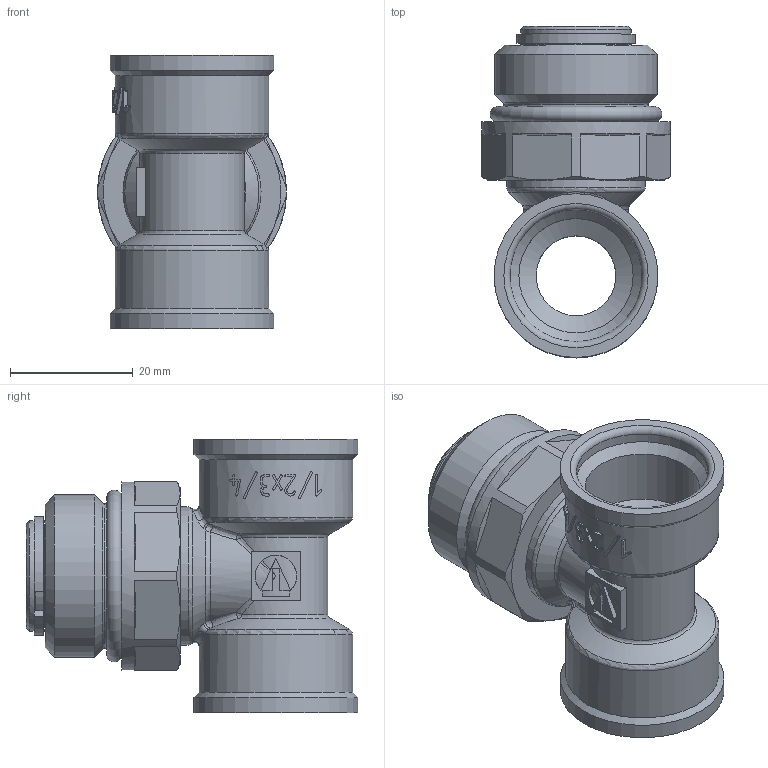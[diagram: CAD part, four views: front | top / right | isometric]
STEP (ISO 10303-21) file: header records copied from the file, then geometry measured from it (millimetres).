
FILE_DESCRIPTION(('STEP AP242'), '1');
FILE_NAME('VTc.630.N.0504', '', ('UNSPECIFIED'), ('UNSPECIFIED'), 'C3D Converter', 'C3D Toolkit', '');
FILE_SCHEMA(('AP242_MANAGED_MODEL_BASED_3D_ENGINEERING_MIM_LF { 1 0 10303 442 1 1 4 }'));
Length unit declared in the file: millimetre
Products named in the file (1): ВР.302635.091.000 СБ
Bounding box: 30.8 x 54.05 x 44.6 mm (x, y, z)
Volume: 19711.5 mm3; surface area: 11503.5 mm2
Topology: 1 solids, 1 shells, 309 faces, 826 edges, 528 vertices
Faces by surface type: extrusion 108, plane 91, cylinder 33, bspline 33, cone 31, torus 13
Full cylindrical faces by diameter (mm): 13 x2, 18 x2, 18.632 x2, 21.5 x2, 22.5 x1, 23.5 x1, 25 x2, 26.441 x1, 26.7 x2, 30.8 x1
Entity records: 14423 total; most frequent: CARTESIAN_POINT 7769, ORIENTED_EDGE 1576, DIRECTION 944, EDGE_CURVE 788, VERTEX_POINT 528, B_SPLINE_CURVE_WITH_KNOTS 450, EDGE_LOOP 360, VECTOR 352
